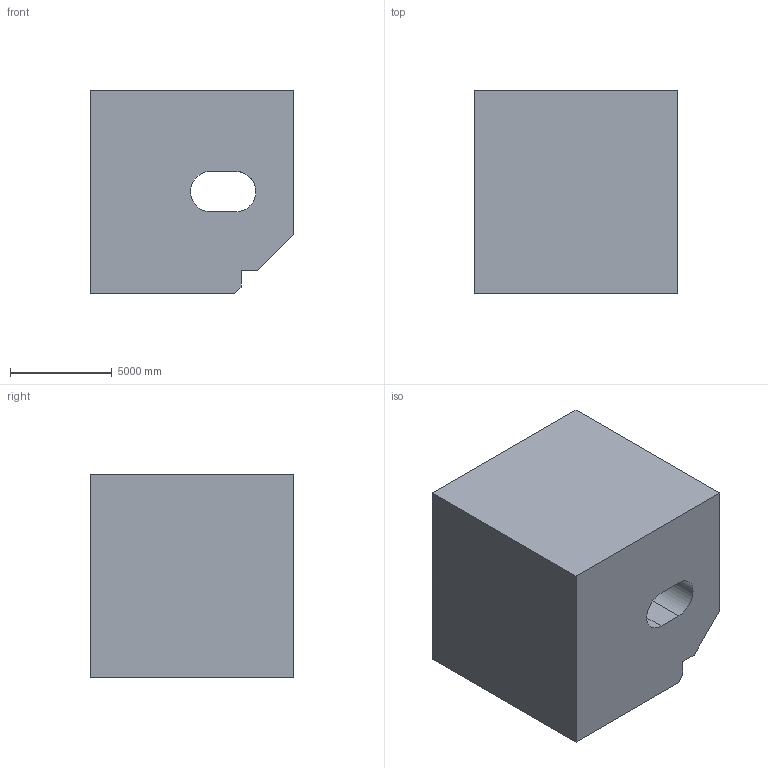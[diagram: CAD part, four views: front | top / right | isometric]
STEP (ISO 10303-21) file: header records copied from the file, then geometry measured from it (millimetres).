
FILE_DESCRIPTION (( 'STEP AP203' ), '1' );
FILE_NAME ('471.STEP', '2022-07-29T11:24:50', ( 'user' ), ( '' ), 'SwSTEP 2.0', 'SolidWorks 2021', '' );
FILE_SCHEMA (( 'CONFIG_CONTROL_DESIGN' ));
Length unit declared in the file: centimetre
Products named in the file (1): 471
Bounding box: 10000 x 10000 x 10000 mm (x, y, z)
Volume: 838038756190.1 mm3; surface area: 733851157.8 mm2
Topology: 1 solids, 1 shells, 25 faces, 69 edges, 46 vertices
Faces by surface type: plane 18, cylinder 7
Entity records: 1039 total; most frequent: CARTESIAN_POINT 306, ORIENTED_EDGE 138, DIRECTION 131, EDGE_CURVE 69, VECTOR 51, LINE 51, VERTEX_POINT 46, AXIS2_PLACEMENT_3D 40
